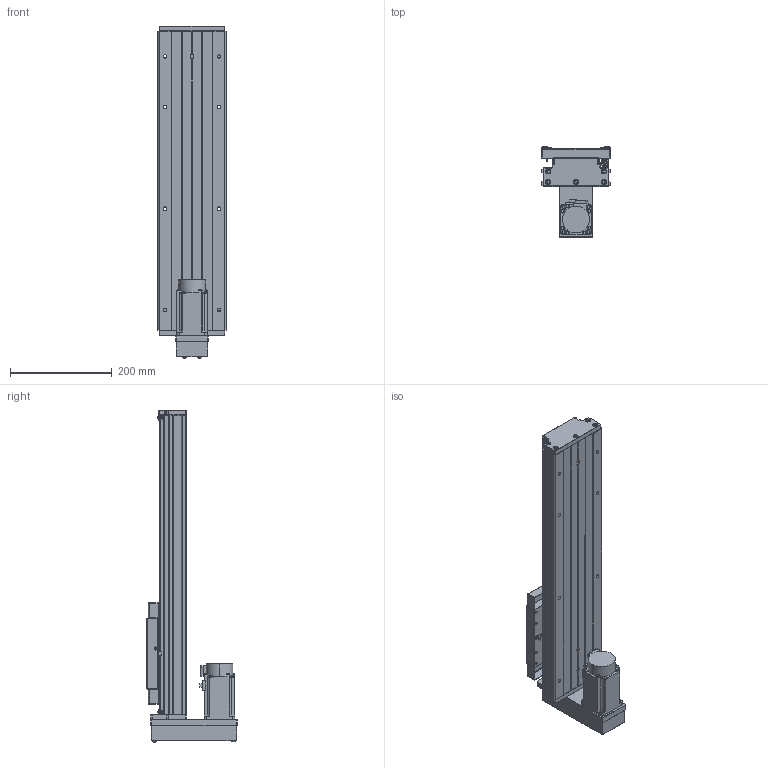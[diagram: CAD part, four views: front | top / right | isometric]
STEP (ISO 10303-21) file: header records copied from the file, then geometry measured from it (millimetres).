
FILE_DESCRIPTION (( 'STEP AP203' ), '1' );
FILE_NAME ('GTH14-350-BM-M40-C4.step', '2023-06-30T08:45:42', ( '微软用户' ), ( '微软中国' ), 'SwSTEP 2.0', 'SolidWorks 2020', '' );
FILE_SCHEMA (( 'CONFIG_CONTROL_DESIGN' ));
Length unit declared in the file: millimetre
Products named in the file (19): す晦芛蹟隊 M3℅5; GTH14-001_350; EE_SX911P_R; HG-KN43J-S100; GTH14-002_GTH14-002; GTH14-350-BM-M40-C4; CTHA60-016; GBT 70.2-M4¡Á35_M4¡Á35; GTH14-004; GBT 70.1-M3℅5; GTH14-015-2_CTHA86-015-2; GTH14-005; GBT77-2000 M3×3; GTH14-033; GB1155-6X6; GTH14-031; GBT70.1 M5℅16; GBT 70.2-M3¡Á5_M3¡Á6; CTHA60-017
Assembly tree (58 placements, depth 2):
  GTH14-350-BM-M40-C4
    GTH14-001_350
    GTH14-002_GTH14-002
    GTH14-004
    GTH14-005
    GB1155-6X6  x2
    GBT70.1 M5℅16  x10
    CTHA60-017  x3
    EE_SX911P_R  x3
    CTHA60-016  x2
    GBT 70.1-M3℅5  x6
    GBT77-2000 M3×3  x6
    GTH14-031
    GBT 70.2-M3¡Á5_M3¡Á6  x8
    す晦芛蹟隊 M3℅5  x6
    HG-KN43J-S100
    GBT 70.2-M4¡Á35_M4¡Á35  x4
    GTH14-015-2_CTHA86-015-2
    GTH14-033
Bounding box: 135 x 177.5 x 654.2 mm (x, y, z)
Volume: 3844914.1 mm3; surface area: 692821.8 mm2
Topology: 61 solids, 61 shells, 2443 faces, 5809 edges, 3578 vertices
Faces by surface type: plane 1305, cylinder 648, cone 314, torus 124, sphere 32, bspline 20
Entity records: 43850 total; most frequent: CARTESIAN_POINT 9807, DIRECTION 6429, ORIENTED_EDGE 6308, EDGE_CURVE 3154, AXIS2_PLACEMENT_3D 2192, VECTOR 2045, LINE 2045, VERTEX_POINT 1996
